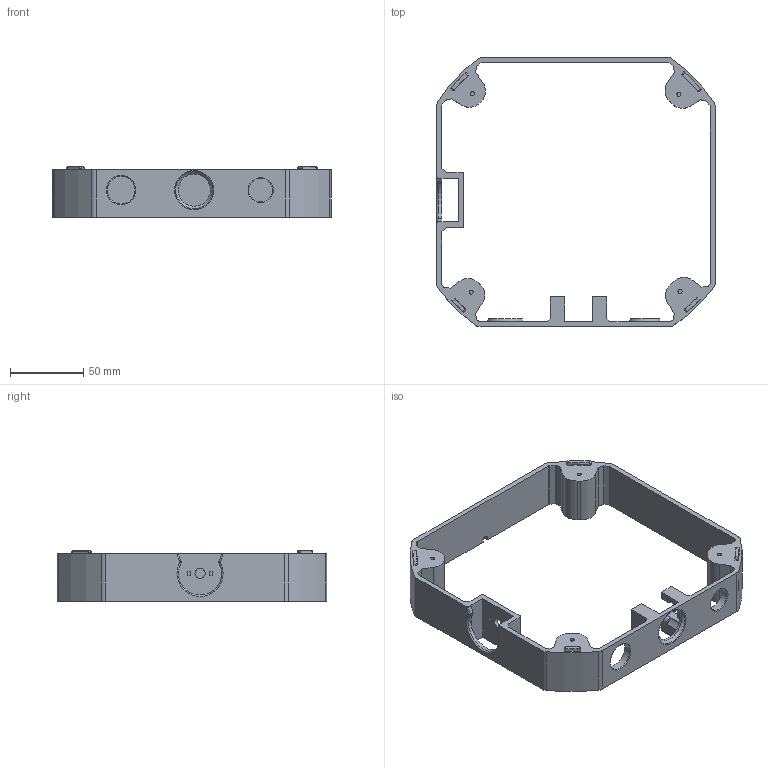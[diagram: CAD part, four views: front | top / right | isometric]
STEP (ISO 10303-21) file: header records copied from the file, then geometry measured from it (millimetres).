
FILE_DESCRIPTION(/* description */ (''),/* implementation_level */ '2;1');
FILE_NAME(/* name */ 'LAST_BASE 04.stp',/* time_stamp */ '2025-11-19T23:12:02+09:00',/* author */ (''),/* organization */ (''),/* preprocessor_version */ 'ST-DEVELOPER v11',/* originating_system */ 'SIEMENS PLM Software NX 7.5',/* authorisation */ '');
FILE_SCHEMA (('CONFIG_CONTROL_DESIGN'));
Length unit declared in the file: millimetre
Products named in the file (1): gyun8741ysg4
Bounding box: 190.4 x 184.4 x 34.4 mm (x, y, z)
Volume: 140418 mm3; surface area: 60618.4 mm2
Topology: 1 solids, 1 shells, 203 faces, 564 edges, 378 vertices
Faces by surface type: plane 109, cylinder 85, torus 4, cone 3, sphere 2
Full cylindrical faces by diameter (mm): 2.8 x4, 2.9 x4, 3 x4, 7 x1, 11 x1, 16.2 x1, 19.1 x1, 22 x1
Entity records: 6600 total; most frequent: CARTESIAN_POINT 1328, DIRECTION 1090, ORIENTED_EDGE 1046, EDGE_CURVE 523, AXIS2_PLACEMENT_3D 378, VERTEX_POINT 360, LINE 334, VECTOR 334
